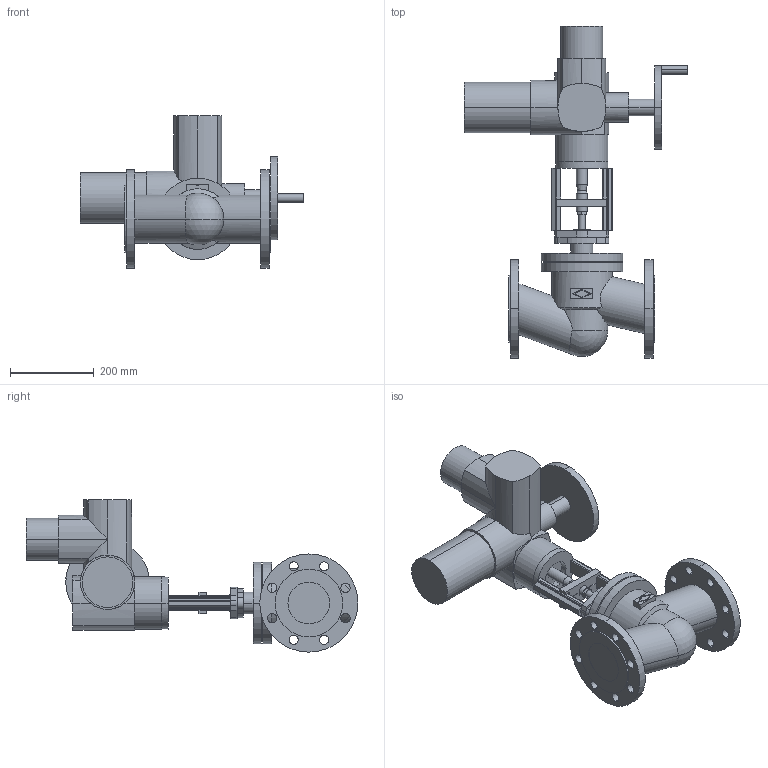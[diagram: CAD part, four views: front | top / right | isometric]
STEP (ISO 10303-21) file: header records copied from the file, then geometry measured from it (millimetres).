
FILE_DESCRIPTION(('OneSpaceDesigner STEP Export'),'2;1');
FILE_NAME('c000003110.stp','2007-01-09T11:45:37',(''),(''),'OneSpace Designer STEP processor for AP214 (Solid Model)','OneSpace Designer 14.00B 27-May-2006 (C) CoCreate Software GmbH','');
FILE_SCHEMA(('AUTOMOTIVE_DESIGN { 1 0 10303 214 1 1 1 1 }'));
Length unit declared in the file: millimetre
Products named in the file (3): 1; 2; 3
Bounding box: 536 x 794.5 x 364.5 mm (x, y, z)
Volume: 18434177.4 mm3; surface area: 991559.4 mm2
Topology: 3 solids, 3 shells, 273 faces, 694 edges, 442 vertices
Faces by surface type: cylinder 148, plane 117, cone 6, sphere 2
Entity records: 8015 total; most frequent: CARTESIAN_POINT 1851, ORIENTED_EDGE 1384, DIRECTION 1123, EDGE_CURVE 692, VERTEX_POINT 442, AXIS2_PLACEMENT_3D 383, VECTOR 357, LINE 357
